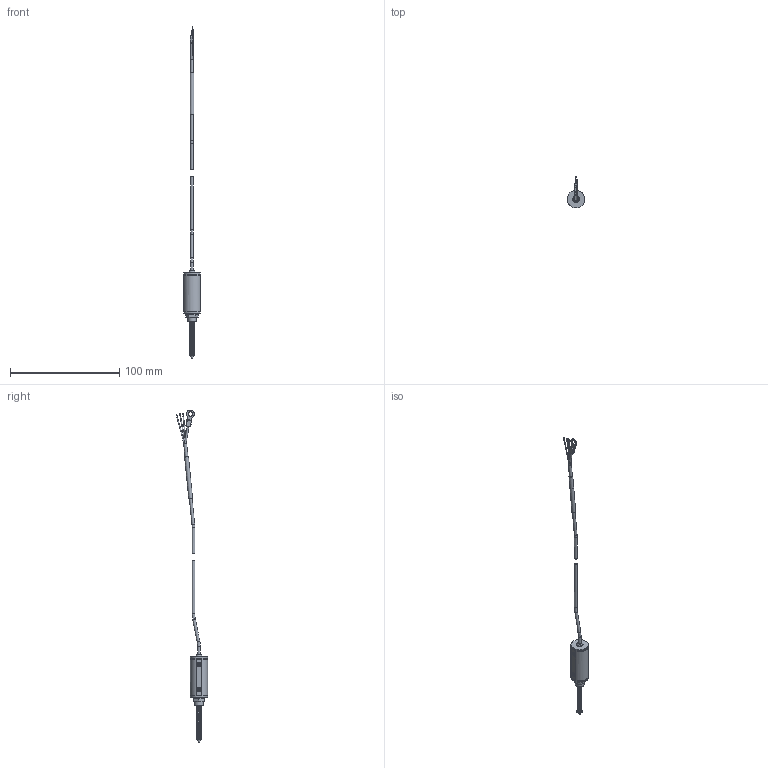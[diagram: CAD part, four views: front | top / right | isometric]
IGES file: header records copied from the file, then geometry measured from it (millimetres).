
Global section: file name: LPPS-MSL-005; native system: Autodesk Inventor 2020; preprocessor: unknown; author: J. Nielson; date: 20190829.151858; units: inch
Bounding box: 15.1 x 28.77 x 304.06 mm (x, y, z)
Volume: 4982 mm3; surface area: 9700.2 mm2
Topology: 24 solids, 24 shells, 339 faces, 855 edges, 577 vertices
Faces by surface type: bspline 339
